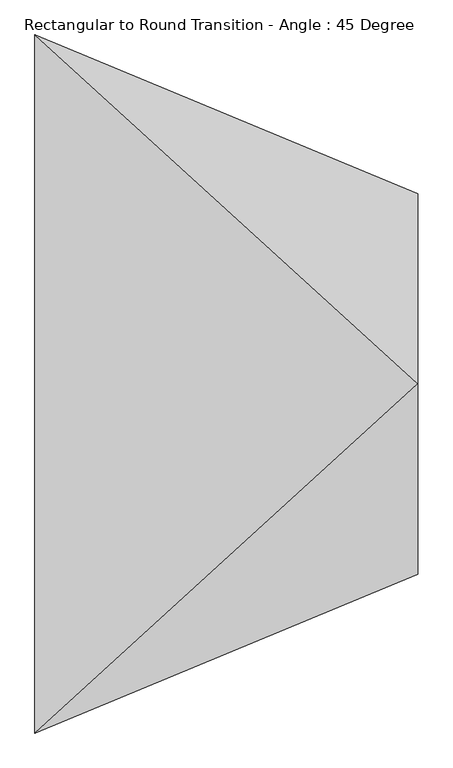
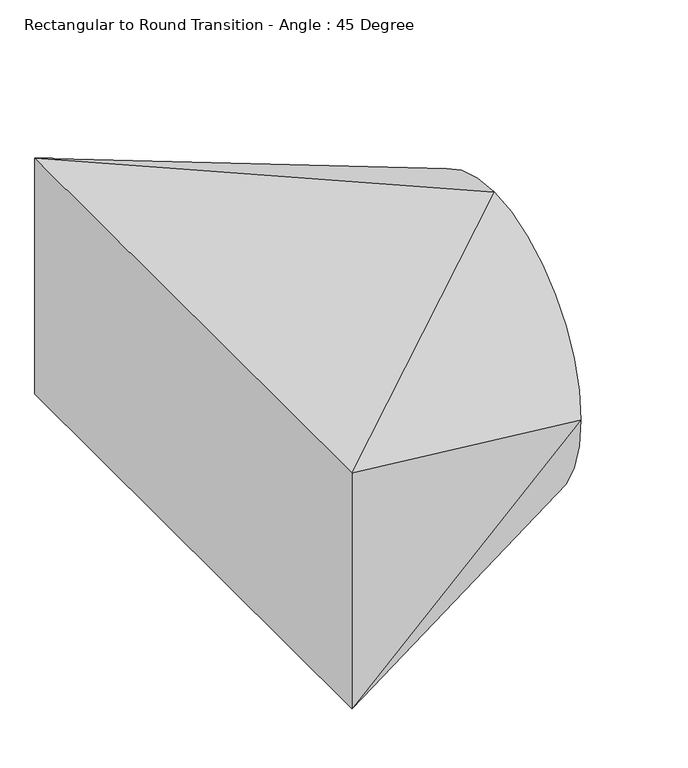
"""IFC4 building model written with IfcOpenShell, lengths in millimetres: duct fitting geometry, Rectangular to Round Transition - Angle : 45 Degree."""

from ifc_helpers import new_model, si_unit, frame, origin, place, context, project, spatial, circle_curve, source, transform, mapped, element, save
from ifc_brep_helpers import plane_surface, spline_surface, advanced_brep


def rectangular_to_round_transition_angle_45_degree_3d5aa9e1(model_context):
    return source(origin(), model_context, "Body", "AdvancedBrep", [
        advanced_brep(
        [(613.2102448, 0.0, 304.8), (613.2102448, -304.8, 0.0), (613.2102448, 0.0, -304.8), (613.2102448, 304.8, 0.0), (0.0, -558.8, 254.0), (0.0, 558.8, 254.0), (0.0, 558.8, -254.0), (0.0, -558.8, -254.0)],
        [
            (0, 1, circle_curve(frame((613.2102448, 0.0, 0.0), z_axis=(1.0, 0.0, 0.0), x_axis=(0.0, 1.0, 0.0)), 304.8)),
            (1, 2, circle_curve(frame((613.2102448, 0.0, 0.0), z_axis=(1.0, 0.0, 0.0), x_axis=(0.0, 1.0, 0.0)), 304.8)),
            (2, 3, circle_curve(frame((613.2102448, 0.0, 0.0), z_axis=(1.0, 0.0, 0.0), x_axis=(0.0, 1.0, 0.0)), 304.8)),
            (3, 0, circle_curve(frame((613.2102448, 0.0, 0.0), z_axis=(1.0, 0.0, 0.0), x_axis=(0.0, 1.0, 0.0)), 304.8)),
            (4, 5),
            (5, 6),
            (6, 7),
            (7, 4),
            (0, 4),
            (4, 1),
            (7, 1),
            (7, 2),
            (6, 2),
            (6, 3),
            (5, 3),
            (5, 0),
        ],
        [
            plane_surface(frame((613.2102448, 0.0, 0.0), z_axis=(1.0, 0.0, 0.0), x_axis=(0.0, 0.0, -1.0))),
            plane_surface(frame((0.0, 0.0, 0.0), z_axis=(-1.0, 0.0, 0.0), x_axis=(0.0, 0.0, -1.0))),
            spline_surface(2, 1, [[(0.0, -558.8, 254.0), (613.2102448, 0.0, 304.8)], [(0.0, -558.8, 254.0), (613.2102448, -304.8, 304.8)], [(0.0, -558.8, 254.0), (613.2102448, -304.8, 0.0)]], [3, 3], [2, 2], [0.0, 1.0], [0.0, 1.0], weights=[[1.0, 1.0], [0.7071067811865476, 0.7071067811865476], [1.0, 1.0]]),
            plane_surface(frame((0.0, -558.8, 0.0), z_axis=(0.3826834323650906, -0.9238795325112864, 0.0), x_axis=(0.0, 0.0, -1.0))),
            spline_surface(2, 1, [[(0.0, -558.8, -254.0), (613.2102448, -304.8, 0.0)], [(0.0, -558.8, -254.0), (613.2102448, -304.8, -304.8)], [(0.0, -558.8, -254.0), (613.2102448, 0.0, -304.8)]], [3, 3], [2, 2], [0.0, 1.0], [0.0, 1.0], weights=[[1.0, 1.0], [0.7071067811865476, 0.7071067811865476], [1.0, 1.0]]),
            plane_surface(frame((0.0, 0.0, -254.0), z_axis=(-0.08255989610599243, 0.0, -0.996586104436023), x_axis=(0.0, 1.0, 0.0))),
            spline_surface(2, 1, [[(0.0, 558.8, -254.0), (613.2102448, 0.0, -304.8)], [(0.0, 558.8, -254.0), (613.2102448, 304.8, -304.8)], [(0.0, 558.8, -254.0), (613.2102448, 304.8, 0.0)]], [3, 3], [2, 2], [0.0, 1.0], [0.0, 1.0], weights=[[1.0, 1.0], [0.7071067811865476, 0.7071067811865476], [1.0, 1.0]]),
            plane_surface(frame((0.0, 558.8, 0.0), z_axis=(0.3826834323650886, 0.9238795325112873, 0.0), x_axis=(0.0, 0.0, 1.0))),
            spline_surface(2, 1, [[(0.0, 558.8, 254.0), (613.2102448, 304.8, 0.0)], [(0.0, 558.8, 254.0), (613.2102448, 304.8, 304.8)], [(0.0, 558.8, 254.0), (613.2102448, 0.0, 304.8)]], [3, 3], [2, 2], [0.0, 1.0], [0.0, 1.0], weights=[[1.0, 1.0], [0.7071067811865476, 0.7071067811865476], [1.0, 1.0]]),
            plane_surface(frame((0.0, 0.0, 254.0), z_axis=(-0.08255989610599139, 0.0, 0.9965861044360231), x_axis=(0.0, -1.0, 0.0))),
        ],
        [
            (0, [[1, 2, 3, 4]]),
            (1, [[5, 6, 7, 8]]),
            (2, [[-1, 9, 10]]),
            (3, [[-8, 11, -10]]),
            (4, [[-2, -11, 12]]),
            (5, [[-7, 13, -12]]),
            (6, [[-3, -13, 14]]),
            (7, [[-6, 15, -14]]),
            (8, [[-4, -15, 16]]),
            (9, [[-5, -9, -16]]),
        ],
    ),
    ])


if __name__ == "__main__":
    model = new_model("IFC4")
    model_context = context("Model", 3, world=origin())
    ifc_project = project(units=[si_unit("LENGTHUNIT", "METRE", prefix="MILLI")], contexts=[model_context])
    site = spatial("IfcSite", under=ifc_project)
    building = spatial("IfcBuilding", under=site)
    placement = place(None, origin())
    rectangular_to_round_transition_angle_45_degree_shape = rectangular_to_round_transition_angle_45_degree_3d5aa9e1(model_context)
    element("IfcDuctFitting", 1, ObjectType="Rectangular to Round Transition - Angle : 45 Degree", at=placement, inside=building, context=model_context, shape_type="MappedRepresentation", body=[
        mapped(rectangular_to_round_transition_angle_45_degree_shape, transform((0.0, 0.0, 0.0), x_axis=(1.0, 0.0, 0.0), y_axis=(0.0, 1.0, 0.0), z_axis=(0.0, 0.0, 1.0))),
    ])
    save(model, "model.ifc")
